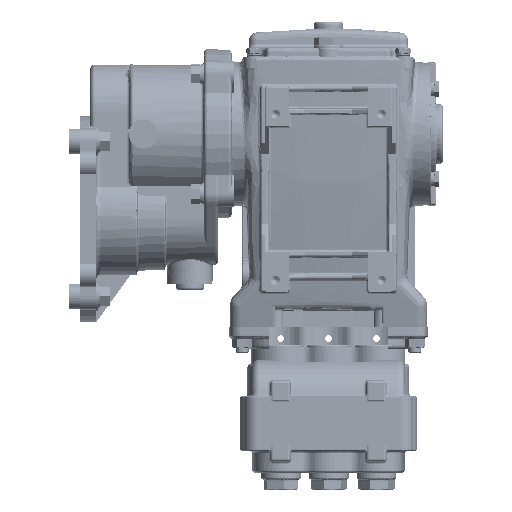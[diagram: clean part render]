
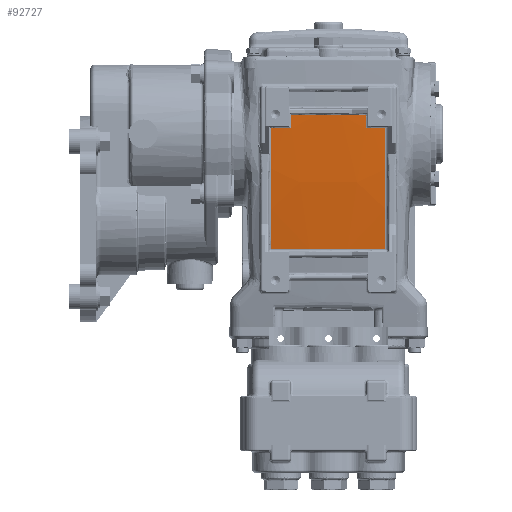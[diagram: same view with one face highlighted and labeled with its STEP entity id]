
A CAD part, front view. The second image highlights one B-rep face of the part: STEP entity #92727.
In plain terms, the highlighted spherical face has radius 1000 mm.
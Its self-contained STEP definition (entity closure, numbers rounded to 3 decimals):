
#19152 = AXIS2_PLACEMENT_3D ( 'NONE', #127814, #127815, #127816 ) ;
#19235 = FACE_OUTER_BOUND ( 'NONE', #76784, .T. ) ;
#19249 = SPHERICAL_SURFACE ( 'NONE', #19152, 1000. ) ;
#33153 = AXIS2_PLACEMENT_3D ( 'NONE', #60316, #60317, #60318 ) ;
#33177 = AXIS2_PLACEMENT_3D ( 'NONE', #60319, #60320, #60321 ) ;
#33179 = AXIS2_PLACEMENT_3D ( 'NONE', #60328, #60329, #60330 ) ;
#33181 = AXIS2_PLACEMENT_3D ( 'NONE', #60313, #60314, #60315 ) ;
#33183 = AXIS2_PLACEMENT_3D ( 'NONE', #60331, #60332, #60333 ) ;
#33185 = AXIS2_PLACEMENT_3D ( 'NONE', #60334, #60335, #60336 ) ;
#33187 = AXIS2_PLACEMENT_3D ( 'NONE', #60322, #60323, #60324 ) ;
#33190 = AXIS2_PLACEMENT_3D ( 'NONE', #60325, #60326, #60327 ) ;
#60313 = CARTESIAN_POINT ( 'NONE',  ( -42.914, 938.4, 93. ) ) ;
#60314 = DIRECTION ( 'NONE',  ( 1., 0., 0. ) ) ;
#60315 = DIRECTION ( 'NONE',  ( 0., 0., -1. ) ) ;
#60316 = CARTESIAN_POINT ( 'NONE',  ( 0., 938.4, 4.178 ) ) ;
#60317 = DIRECTION ( 'NONE',  ( 0., 0., -1. ) ) ;
#60318 = DIRECTION ( 'NONE',  ( 1., 0., 0. ) ) ;
#60319 = CARTESIAN_POINT ( 'NONE',  ( 0., 938.4, -86.641 ) ) ;
#60320 = DIRECTION ( 'NONE',  ( 0., 0., 1. ) ) ;
#60321 = DIRECTION ( 'NONE',  ( 1., 0., 0. ) ) ;
#60322 = CARTESIAN_POINT ( 'NONE',  ( 42.914, 938.4, 93. ) ) ;
#60323 = DIRECTION ( 'NONE',  ( -1., 0., 0. ) ) ;
#60324 = DIRECTION ( 'NONE',  ( 0., 0., 1. ) ) ;
#60325 = CARTESIAN_POINT ( 'NONE',  ( 0., 938.4, 4.178 ) ) ;
#60326 = DIRECTION ( 'NONE',  ( 0., 0., -1. ) ) ;
#60327 = DIRECTION ( 'NONE',  ( 1., 0., 0. ) ) ;
#60328 = CARTESIAN_POINT ( 'NONE',  ( 27.944, 938.4, 93. ) ) ;
#60329 = DIRECTION ( 'NONE',  ( -1., 0., 0. ) ) ;
#60330 = DIRECTION ( 'NONE',  ( 0., -1., 0. ) ) ;
#60331 = CARTESIAN_POINT ( 'NONE',  ( 0., 938.4, 14.158 ) ) ;
#60332 = DIRECTION ( 'NONE',  ( 0., 0., -1. ) ) ;
#60333 = DIRECTION ( 'NONE',  ( 1., 0., 0. ) ) ;
#60334 = CARTESIAN_POINT ( 'NONE',  ( -27.944, 938.4, 93. ) ) ;
#60335 = DIRECTION ( 'NONE',  ( 1., 0., 0. ) ) ;
#60336 = DIRECTION ( 'NONE',  ( 0., 1., 0. ) ) ;
#76784 = EDGE_LOOP ( 'NONE', ( #229696, #229698, #229697, #229701, #229704, #229706, #229708, #229711 ) ) ;
#92727 = ADVANCED_FACE ( 'NONE', ( #19235 ), #19249, .T. ) ;
#116403 = CARTESIAN_POINT ( 'NONE',  ( 42.914, -56.723, 4.178 ) ) ;
#116535 = CARTESIAN_POINT ( 'NONE',  ( 27.944, -58.095, 14.158 ) ) ;
#116763 = CARTESIAN_POINT ( 'NONE',  ( -42.914, -56.723, 4.178 ) ) ;
#116816 = CARTESIAN_POINT ( 'NONE',  ( 27.944, -57.255, 4.178 ) ) ;
#116822 = CARTESIAN_POINT ( 'NONE',  ( -27.944, -58.095, 14.158 ) ) ;
#127814 = CARTESIAN_POINT ( 'NONE',  ( 0., 938.4, 93. ) ) ;
#127815 = DIRECTION ( 'NONE',  ( 0., 0.259, -0.966 ) ) ;
#127816 = DIRECTION ( 'NONE',  ( 0., -0.966, -0.259 ) ) ;
#189105 = VERTEX_POINT ( 'NONE', #226342 ) ;
#189265 = VERTEX_POINT ( 'NONE', #226502 ) ;
#189319 = VERTEX_POINT ( 'NONE', #226556 ) ;
#197126 = EDGE_CURVE ( 'NONE', #230925, #189105, #219954, .T. ) ;
#197128 = EDGE_CURVE ( 'NONE', #189265, #230925, #219952, .T. ) ;
#197129 = EDGE_CURVE ( 'NONE', #189105, #189319, #219956, .T. ) ;
#197131 = EDGE_CURVE ( 'NONE', #189319, #230506, #219958, .T. ) ;
#197133 = EDGE_CURVE ( 'NONE', #230506, #230978, #219960, .T. ) ;
#197134 = EDGE_CURVE ( 'NONE', #230978, #230697, #219962, .T. ) ;
#197135 = EDGE_CURVE ( 'NONE', #230697, #230984, #219964, .T. ) ;
#197136 = EDGE_CURVE ( 'NONE', #230984, #189265, #219966, .T. ) ;
#219952 = CIRCLE ( 'NONE', #33153, 996.047 ) ;
#219954 = CIRCLE ( 'NONE', #33181, 999.079 ) ;
#219956 = CIRCLE ( 'NONE', #33177, 983.732 ) ;
#219958 = CIRCLE ( 'NONE', #33187, 999.079 ) ;
#219960 = CIRCLE ( 'NONE', #33190, 996.047 ) ;
#219962 = CIRCLE ( 'NONE', #33179, 999.609 ) ;
#219964 = CIRCLE ( 'NONE', #33183, 996.887 ) ;
#219966 = CIRCLE ( 'NONE', #33185, 999.609 ) ;
#226342 = CARTESIAN_POINT ( 'NONE',  ( -42.914, -44.396, -86.641 ) ) ;
#226502 = CARTESIAN_POINT ( 'NONE',  ( -27.944, -57.255, 4.178 ) ) ;
#226556 = CARTESIAN_POINT ( 'NONE',  ( 42.914, -44.396, -86.641 ) ) ;
#229696 = ORIENTED_EDGE ( 'NONE', *, *, #197128, .T. ) ;
#229697 = ORIENTED_EDGE ( 'NONE', *, *, #197129, .T. ) ;
#229698 = ORIENTED_EDGE ( 'NONE', *, *, #197126, .T. ) ;
#229701 = ORIENTED_EDGE ( 'NONE', *, *, #197131, .T. ) ;
#229704 = ORIENTED_EDGE ( 'NONE', *, *, #197133, .T. ) ;
#229706 = ORIENTED_EDGE ( 'NONE', *, *, #197134, .T. ) ;
#229708 = ORIENTED_EDGE ( 'NONE', *, *, #197135, .T. ) ;
#229711 = ORIENTED_EDGE ( 'NONE', *, *, #197136, .T. ) ;
#230506 = VERTEX_POINT ( 'NONE', #116403 ) ;
#230697 = VERTEX_POINT ( 'NONE', #116535 ) ;
#230925 = VERTEX_POINT ( 'NONE', #116763 ) ;
#230978 = VERTEX_POINT ( 'NONE', #116816 ) ;
#230984 = VERTEX_POINT ( 'NONE', #116822 ) ;
